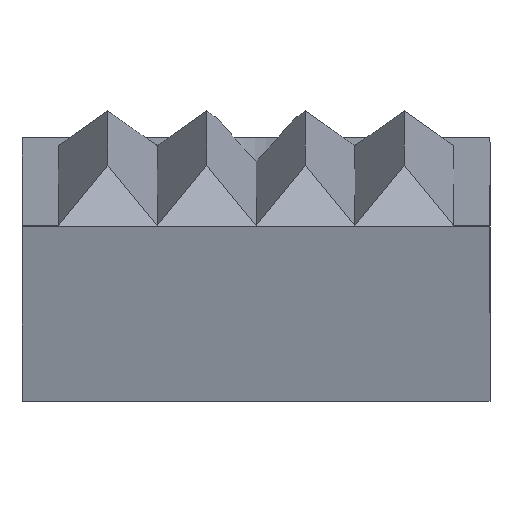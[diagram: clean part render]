
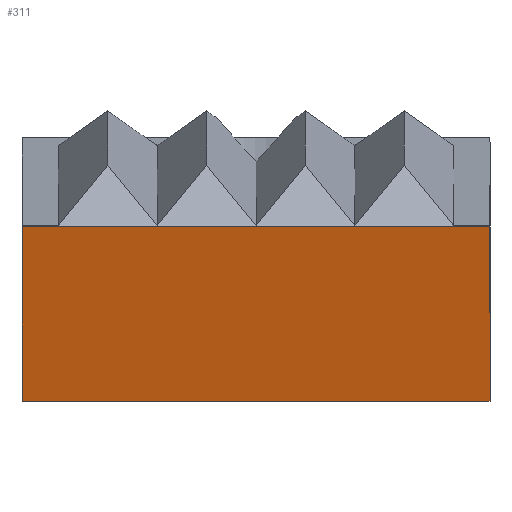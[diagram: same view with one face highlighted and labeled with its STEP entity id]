
A CAD part, left-side view. The second image highlights one B-rep face of the part: STEP entity #311.
In plain terms, the highlighted planar face has unit normal (-0.966, 0, -0.259).
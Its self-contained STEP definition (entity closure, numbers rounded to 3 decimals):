
#291=AXIS2_PLACEMENT_3D('Plane Axis2P3D',#288,#289,#290) ;
#209=CARTESIAN_POINT('Vertex',(-9.394,-7.1,5.297)) ;
#212=CARTESIAN_POINT('Line Origine',(-8.684,-7.1,2.648)) ;
#216=CARTESIAN_POINT('Vertex',(-7.974,-7.1,0.)) ;
#244=CARTESIAN_POINT('Line Origine',(-7.974,0.,0.)) ;
#248=CARTESIAN_POINT('Vertex',(-7.974,7.1,0.)) ;
#288=CARTESIAN_POINT('Axis2P3D Location',(-9.4,7.1,5.321)) ;
#293=CARTESIAN_POINT('Line Origine',(-8.684,7.1,2.648)) ;
#297=CARTESIAN_POINT('Vertex',(-9.394,7.1,5.297)) ;
#300=CARTESIAN_POINT('Line Origine',(-9.394,0.,5.297)) ;
#213=DIRECTION('Vector Direction',(0.259,0.,-0.966)) ;
#245=DIRECTION('Vector Direction',(0.,-1.,0.)) ;
#289=DIRECTION('Axis2P3D Direction',(-0.966,-0.,-0.259)) ;
#290=DIRECTION('Axis2P3D XDirection',(0.259,0.,-0.966)) ;
#294=DIRECTION('Vector Direction',(0.259,0.,-0.966)) ;
#301=DIRECTION('Vector Direction',(0.,1.,0.)) ;
#214=VECTOR('Line Direction',#213,1.) ;
#246=VECTOR('Line Direction',#245,1.) ;
#295=VECTOR('Line Direction',#294,1.) ;
#302=VECTOR('Line Direction',#301,1.) ;
#306=ORIENTED_EDGE('',*,*,#299,.T.) ;
#307=ORIENTED_EDGE('',*,*,#250,.T.) ;
#308=ORIENTED_EDGE('',*,*,#218,.F.) ;
#309=ORIENTED_EDGE('',*,*,#304,.T.) ;
#311=ADVANCED_FACE('PartBody',(#310),#292,.T.) ;
#218=EDGE_CURVE('',#210,#217,#215,.T.) ;
#250=EDGE_CURVE('',#249,#217,#247,.T.) ;
#299=EDGE_CURVE('',#298,#249,#296,.T.) ;
#304=EDGE_CURVE('',#210,#298,#303,.T.) ;
#305=EDGE_LOOP('',(#306,#307,#308,#309)) ;
#310=FACE_OUTER_BOUND('',#305,.T.) ;
#215=LINE('Line',#212,#214) ;
#247=LINE('Line',#244,#246) ;
#296=LINE('Line',#293,#295) ;
#303=LINE('Line',#300,#302) ;
#292=PLANE('Plane',#291) ;
#210=VERTEX_POINT('',#209) ;
#217=VERTEX_POINT('',#216) ;
#249=VERTEX_POINT('',#248) ;
#298=VERTEX_POINT('',#297) ;
